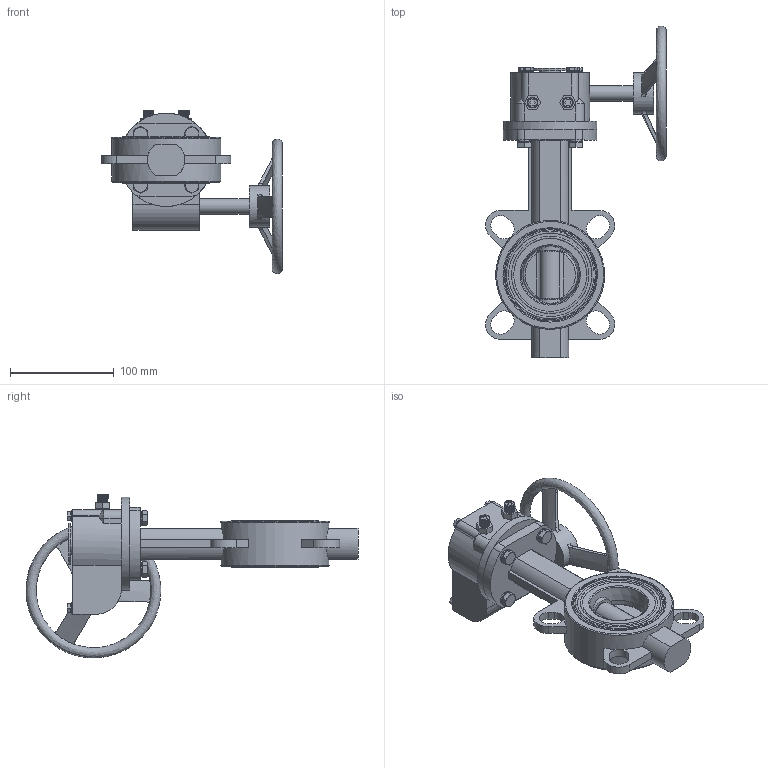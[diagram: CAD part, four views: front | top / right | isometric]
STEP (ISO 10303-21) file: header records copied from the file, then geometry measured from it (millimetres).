
FILE_DESCRIPTION (( 'STEP AP214' ), '1' );
FILE_NAME ('恦謫 勤標評概 Fig.3230-501.STEP', '2026-03-23T01:54:43', ( '' ), ( '' ), 'SwSTEP 2.0', 'SolidWorks 2024', '' );
FILE_SCHEMA (( 'AUTOMOTIVE_DESIGN' ));
Length unit declared in the file: millimetre
Products named in the file (1): 涡轮 对夹蝶阀 Fig.3230-501
Bounding box: 174.21 x 319.97 x 157.59 mm (x, y, z)
Surface area: 135580.5 mm2 (no closed solid volume)
Topology: 0 solids, 1 shells, 602 faces, 1539 edges, 995 vertices
Faces by surface type: plane 305, bspline 161, cylinder 94, cone 42
Full cylindrical faces by diameter (mm): 6 x4, 8 x4, 8.68 x4, 10 x10, 13.68 x4, 15 x1, 20 x1, 40 x2, 50 x1, 90 x1, 105 x1
Entity records: 45733 total; most frequent: CARTESIAN_POINT 26132, ORIENTED_EDGE 2912, DIRECTION 2151, EDGE_CURVE 1467, VERTEX_POINT 972, EDGE_LOOP 737, LINE 727, VECTOR 727
